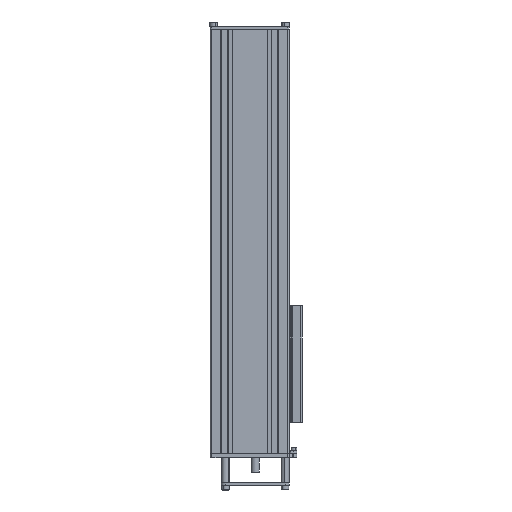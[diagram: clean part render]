
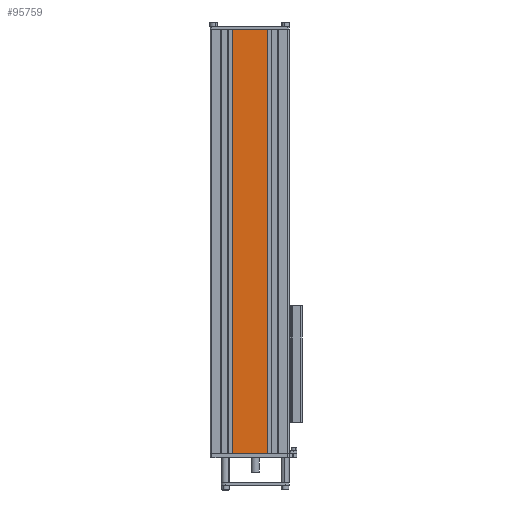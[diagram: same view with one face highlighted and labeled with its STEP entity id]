
A CAD part, left-side view. The second image highlights one B-rep face of the part: STEP entity #95759.
In plain terms, the highlighted planar face has unit normal (-1, 0, 0).
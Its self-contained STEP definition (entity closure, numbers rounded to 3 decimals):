
#4968 = CARTESIAN_POINT ( 'NONE',  ( 0.3, 97.623, -725. ) ) ;
#5698 = PLANE ( 'NONE',  #72558 ) ;
#9152 = VERTEX_POINT ( 'NONE', #4968 ) ;
#10328 = EDGE_CURVE ( 'NONE', #73202, #96484, #158381, .T. ) ;
#27043 = CARTESIAN_POINT ( 'NONE',  ( 0.3, 37.623, -725. ) ) ;
#38916 = ORIENTED_EDGE ( 'NONE', *, *, #10328, .T. ) ;
#40861 = CARTESIAN_POINT ( 'NONE',  ( 0.3, 97.623, -725. ) ) ;
#44760 = LINE ( 'NONE', #40861, #79280 ) ;
#48523 = ORIENTED_EDGE ( 'NONE', *, *, #132914, .F. ) ;
#50913 = DIRECTION ( 'NONE',  ( 1., 0., 0. ) ) ;
#61311 = LINE ( 'NONE', #180331, #133351 ) ;
#72558 = AXIS2_PLACEMENT_3D ( 'NONE', #185673, #50913, #110945 ) ;
#73202 = VERTEX_POINT ( 'NONE', #27043 ) ;
#75910 = CARTESIAN_POINT ( 'NONE',  ( 0.3, 37.623, 0. ) ) ;
#79280 = VECTOR ( 'NONE', #163795, 1000. ) ;
#82327 = ORIENTED_EDGE ( 'NONE', *, *, #127022, .F. ) ;
#95759 = ADVANCED_FACE ( 'NONE', ( #140449 ), #5698, .F. ) ;
#96484 = VERTEX_POINT ( 'NONE', #75910 ) ;
#106784 = CARTESIAN_POINT ( 'NONE',  ( 0.3, 97.623, 0. ) ) ;
#108992 = CARTESIAN_POINT ( 'NONE',  ( 0.3, 97.623, -809.119 ) ) ;
#110945 = DIRECTION ( 'NONE',  ( 0., 1., 0. ) ) ;
#114396 = VERTEX_POINT ( 'NONE', #106784 ) ;
#118776 = ORIENTED_EDGE ( 'NONE', *, *, #165531, .T. ) ;
#125689 = DIRECTION ( 'NONE',  ( 0., 0., 1. ) ) ;
#127022 = EDGE_CURVE ( 'NONE', #9152, #114396, #139454, .T. ) ;
#132914 = EDGE_CURVE ( 'NONE', #73202, #9152, #44760, .T. ) ;
#133351 = VECTOR ( 'NONE', #179343, 1000. ) ;
#133353 = VECTOR ( 'NONE', #125689, 1000. ) ;
#139454 = LINE ( 'NONE', #108992, #133353 ) ;
#140449 = FACE_OUTER_BOUND ( 'NONE', #190860, .T. ) ;
#144579 = CARTESIAN_POINT ( 'NONE',  ( 0.3, 37.623, -809.119 ) ) ;
#158381 = LINE ( 'NONE', #144579, #176904 ) ;
#163795 = DIRECTION ( 'NONE',  ( 0., 1., 0. ) ) ;
#165531 = EDGE_CURVE ( 'NONE', #96484, #114396, #61311, .T. ) ;
#176904 = VECTOR ( 'NONE', #189813, 1000. ) ;
#179343 = DIRECTION ( 'NONE',  ( 0., 1., 0. ) ) ;
#180331 = CARTESIAN_POINT ( 'NONE',  ( 0.3, 97.623, 0. ) ) ;
#185673 = CARTESIAN_POINT ( 'NONE',  ( 0.3, 97.623, -809.119 ) ) ;
#189813 = DIRECTION ( 'NONE',  ( 0., 0., 1. ) ) ;
#190860 = EDGE_LOOP ( 'NONE', ( #38916, #118776, #82327, #48523 ) ) ;
